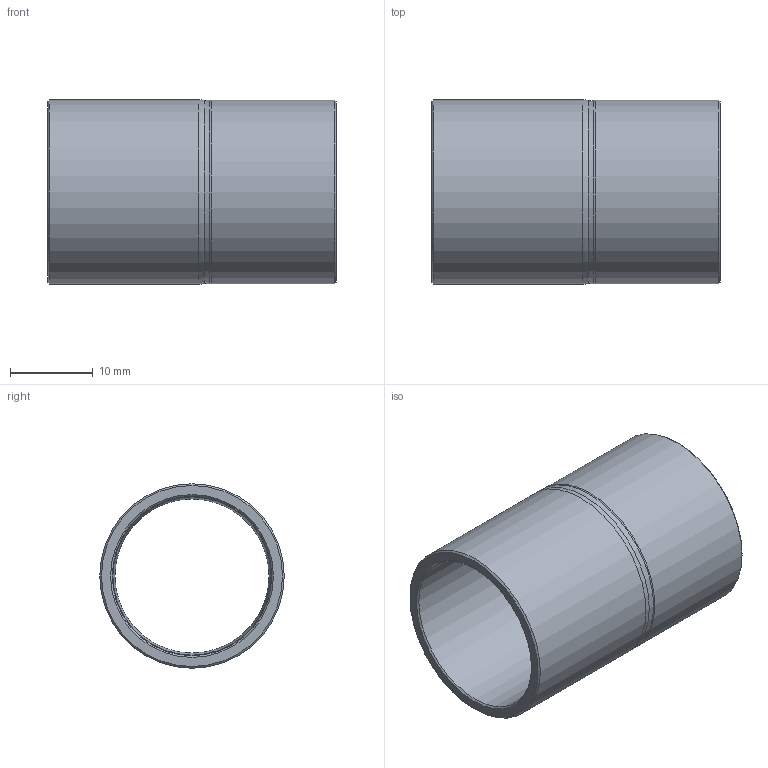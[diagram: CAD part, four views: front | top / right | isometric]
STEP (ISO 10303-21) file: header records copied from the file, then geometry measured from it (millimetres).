
FILE_DESCRIPTION((''),'2;1');
FILE_NAME('G:\SANHA-Ternat\Technik\Management\Bouwmaten + markeringen\z-maattekeningen 3D\29000s\292437834_3d.stp','2017-08-03T16:03:33',('vdvijverd'),(''),'Autodesk Inventor 2009','Autodesk Inventor 2009','');
FILE_SCHEMA(('AUTOMOTIVE_DESIGN { 1 0 10303 214 1 1 1 1 }'));
Length unit declared in the file: millimetre
Products named in the file (1): 292437834_3d
Bounding box: 34.8 x 22.23 x 22.23 mm (x, y, z)
Volume: 3417.6 mm3; surface area: 4693.1 mm2
Topology: 1 solids, 1 shells, 16 faces, 30 edges, 16 vertices
Faces by surface type: cone 4, cylinder 4, torus 3, bspline 3, plane 2
Full cylindrical faces by diameter (mm): 19.17 x1, 19.225 x1, 22.17 x1, 22.225 x1
Entity records: 492 total; most frequent: CARTESIAN_POINT 199, DIRECTION 60, ORIENTED_EDGE 32, EDGE_LOOP 32, AXIS2_PLACEMENT_3D 30, VERTEX_POINT 16, CIRCLE 16, EDGE_CURVE 16
